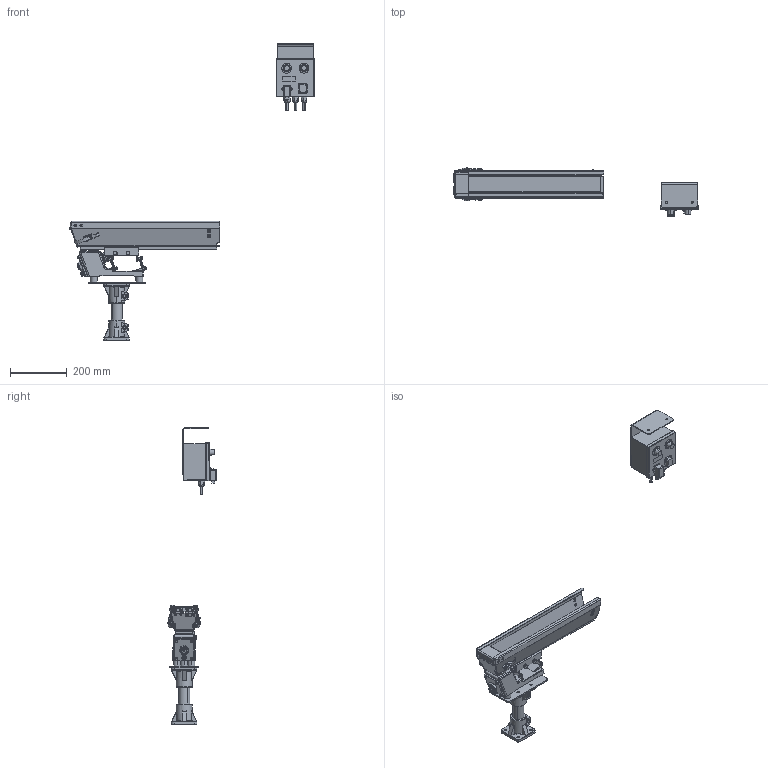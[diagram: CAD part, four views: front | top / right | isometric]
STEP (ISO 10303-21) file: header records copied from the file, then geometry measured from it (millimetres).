
FILE_DESCRIPTION (( 'STEP AP214' ), '1' );
FILE_NAME ('GM000902..step', '2026-10-16T09:54:39', ( '' ), ( '' ), 'SwSTEP 2.0', 'SolidWorks 2025', '' );
FILE_SCHEMA (( 'AUTOMOTIVE_DESIGN' ));
Length unit declared in the file: millimetre
Products named in the file (32): PD009562; CM000306_002; CM000305_003; CM000979; CM000306; PD009562_002; PD003255; CM000934; PD009562_001; CM000305_002; CM000432; CM000561; CM000921; CM000559; PD003254; CM000922; PD003253; CM000925; SM000080; PD000067; PD003252; CM000727; GM000902.; PD003257; CM000305; PD003251; CM000924; CM000306_001; CM000306_003; CM000305_001; CE000026
Assembly tree (44 placements, depth 3):
  CM000921
  CM000922
  CM000925
  GM000902.
    CM000561  x4
    CM000979  x4
    CM000559  x4
    PD009562
      PD009562_001
      PD009562_002
    PD003251
    CM000727
    PD003252
    CM000305
      CM000305_001
      CM000305_003
      CM000305_002
    CM000305
      CM000305_001
      CM000305_003
      CM000305_002
    CM000306  x2
      CM000306_001
      CM000306_002
      CM000306_003
    PD003253
    PD003254
    PD003255
    PD003257
    CM000432  x2
    SM000080
    PD000067
    CE000026
    CM000934  x4
  CM000924
Bounding box: 861.18 x 170.98 x 1044.73 mm (x, y, z)
Volume: 3542426.6 mm3; surface area: 938733.6 mm2
Topology: 42 solids, 67 shells, 6632 faces, 17995 edges, 11594 vertices
Faces by surface type: cylinder 4452, plane 1358, cone 528, torus 210, bspline 42, sphere 42
Entity records: 122328 total; most frequent: CARTESIAN_POINT 35639, ORIENTED_EDGE 18464, DIRECTION 16439, EDGE_CURVE 9232, AXIS2_PLACEMENT_3D 6468, VERTEX_POINT 5851, EDGE_LOOP 3959, ADVANCED_FACE 3616
